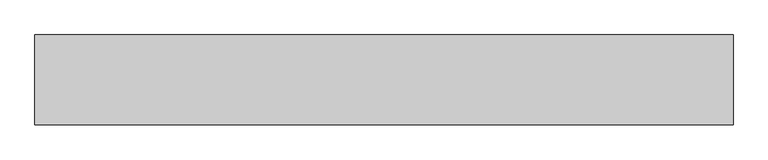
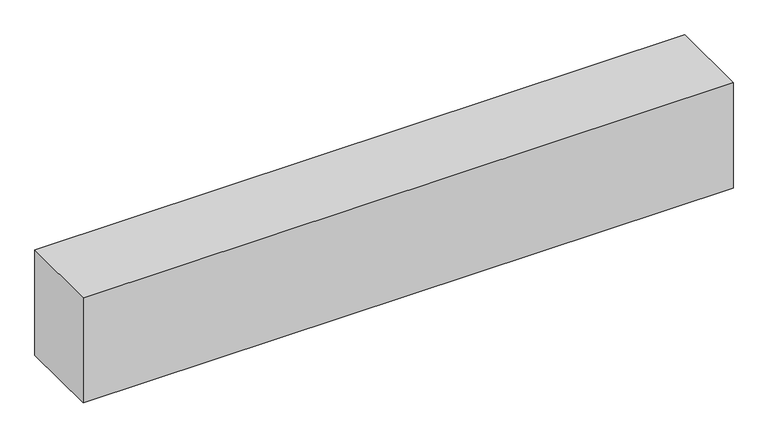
"""IFC4 building model written with IfcOpenShell, lengths in millimetres: beam geometry, NS R30 180x240x1400 : NS R30 180x240x1400."""

from ifc_helpers import new_model, si_unit, origin, origin_with_axes, place, context, project, spatial, polyline, outline, extrude, source, transform, mapped, element, save


def beam_2ec28f14(model_context):
    return source(origin(), model_context, "Body", "SweptSolid", [
        extrude(outline(polyline([(-700.0, -90.0), (-700.0, 90.0), (700.0, 90.0), (700.0, -90.0), (-700.0, -90.0)])), origin_with_axes(), (0.0, 0.0, 1.0), 240.0),
    ])


if __name__ == "__main__":
    model = new_model("IFC4")
    model_context = context("Model", 3, world=origin())
    ifc_project = project(units=[si_unit("LENGTHUNIT", "METRE", prefix="MILLI")], contexts=[model_context])
    site = spatial("IfcSite", under=ifc_project)
    building = spatial("IfcBuilding", under=site)
    placement = place(None, origin())
    beam_shape = beam_2ec28f14(model_context)
    element("IfcBeam", 1, ObjectType="NS R30 180x240x1400 : NS R30 180x240x1400", at=placement, inside=building, context=model_context, shape_type="MappedRepresentation", body=[
        mapped(beam_shape, transform((0.0, 0.0, 0.0), x_axis=(1.0, 0.0, 0.0), y_axis=(0.0, 1.0, 0.0), z_axis=(0.0, 0.0, 1.0))),
    ])
    save(model, "model.ifc")
